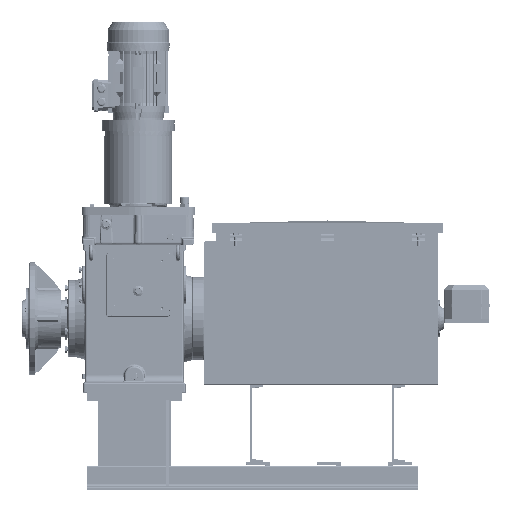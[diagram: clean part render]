
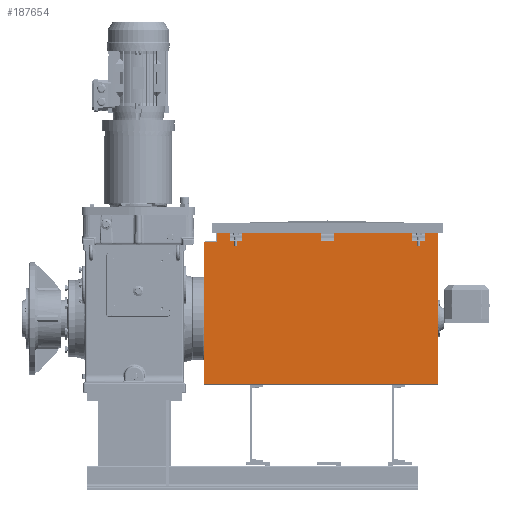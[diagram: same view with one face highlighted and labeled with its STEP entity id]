
A CAD part, top view. The second image highlights one B-rep face of the part: STEP entity #187654.
In plain terms, the highlighted planar face has unit normal (0, 0, 1).
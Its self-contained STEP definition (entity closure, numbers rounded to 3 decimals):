
#1102=PLANE('',#199110);
#10503=LINE('',#275144,#26992);
#10520=LINE('',#275189,#27009);
#10522=LINE('',#275193,#27011);
#10523=LINE('',#275195,#27012);
#10561=LINE('',#275302,#27050);
#10578=LINE('',#275347,#27067);
#10580=LINE('',#275351,#27069);
#10581=LINE('',#275353,#27070);
#10590=LINE('',#275381,#27079);
#10607=LINE('',#275426,#27096);
#10609=LINE('',#275430,#27098);
#10610=LINE('',#275432,#27099);
#10725=LINE('',#275782,#27214);
#10768=LINE('',#275886,#27257);
#10773=LINE('',#275894,#27262);
#10786=LINE('',#275928,#27275);
#10789=LINE('',#275933,#27278);
#10806=LINE('',#275966,#27295);
#10812=LINE('',#275981,#27301);
#10814=LINE('',#275985,#27303);
#10816=LINE('',#275989,#27305);
#10818=LINE('',#275992,#27307);
#10819=LINE('',#275995,#27308);
#10821=LINE('',#275999,#27310);
#10822=LINE('',#276001,#27311);
#10823=LINE('',#276002,#27312);
#26992=VECTOR('',#217965,40.);
#27009=VECTOR('',#218008,40.);
#27011=VECTOR('',#218012,40.);
#27012=VECTOR('',#218015,40.);
#27050=VECTOR('',#218119,40.);
#27067=VECTOR('',#218162,40.);
#27069=VECTOR('',#218166,40.);
#27070=VECTOR('',#218169,40.);
#27079=VECTOR('',#218196,40.);
#27096=VECTOR('',#218239,40.);
#27098=VECTOR('',#218243,40.);
#27099=VECTOR('',#218246,40.);
#27214=VECTOR('',#218569,0.992);
#27257=VECTOR('',#218666,0.992);
#27262=VECTOR('',#218673,596.);
#27275=VECTOR('',#218708,50.);
#27278=VECTOR('',#218713,40.);
#27295=VECTOR('',#218740,49.016);
#27301=VECTOR('',#218762,1.984);
#27303=VECTOR('',#218766,2.976);
#27305=VECTOR('',#218770,2.976);
#27307=VECTOR('',#218774,1.984);
#27308=VECTOR('',#218777,51.016);
#27310=VECTOR('',#218781,448.016);
#27311=VECTOR('',#218782,740.);
#27312=VECTOR('',#218783,498.016);
#43160=FACE_BOUND('',#62831,.T.);
#43161=FACE_BOUND('',#62832,.T.);
#43162=FACE_BOUND('',#62833,.T.);
#52276=FACE_OUTER_BOUND('',#62830,.T.);
#62830=EDGE_LOOP('',(#126661,#126662,#126663,#126664,#126665,#126666,#126667,
#126668,#126669,#126670,#126671,#126672,#126673,#126674));
#62831=EDGE_LOOP('',(#126675,#126676,#126677,#126678));
#62832=EDGE_LOOP('',(#126679,#126680,#126681,#126682));
#62833=EDGE_LOOP('',(#126683,#126684,#126685,#126686));
#78459=VERTEX_POINT('',#275142);
#78460=VERTEX_POINT('',#275143);
#78475=VERTEX_POINT('',#275187);
#78476=VERTEX_POINT('',#275191);
#78511=VERTEX_POINT('',#275300);
#78512=VERTEX_POINT('',#275301);
#78527=VERTEX_POINT('',#275345);
#78528=VERTEX_POINT('',#275349);
#78537=VERTEX_POINT('',#275379);
#78538=VERTEX_POINT('',#275380);
#78553=VERTEX_POINT('',#275424);
#78554=VERTEX_POINT('',#275428);
#78684=VERTEX_POINT('',#275779);
#78685=VERTEX_POINT('',#275781);
#78718=VERTEX_POINT('',#275883);
#78719=VERTEX_POINT('',#275885);
#78730=VERTEX_POINT('',#275926);
#78731=VERTEX_POINT('',#275927);
#78732=VERTEX_POINT('',#275932);
#78743=VERTEX_POINT('',#275965);
#78744=VERTEX_POINT('',#275980);
#78745=VERTEX_POINT('',#275984);
#78746=VERTEX_POINT('',#275988);
#78747=VERTEX_POINT('',#275994);
#78748=VERTEX_POINT('',#275998);
#78749=VERTEX_POINT('',#276000);
#96826=EDGE_CURVE('',#78459,#78460,#10503,.T.);
#96849=EDGE_CURVE('',#78460,#78475,#10520,.T.);
#96851=EDGE_CURVE('',#78476,#78459,#10522,.T.);
#96852=EDGE_CURVE('',#78475,#78476,#10523,.T.);
#96904=EDGE_CURVE('',#78511,#78512,#10561,.T.);
#96927=EDGE_CURVE('',#78512,#78527,#10578,.T.);
#96929=EDGE_CURVE('',#78528,#78511,#10580,.T.);
#96930=EDGE_CURVE('',#78527,#78528,#10581,.T.);
#96943=EDGE_CURVE('',#78537,#78538,#10590,.T.);
#96966=EDGE_CURVE('',#78538,#78553,#10607,.T.);
#96968=EDGE_CURVE('',#78554,#78537,#10609,.T.);
#96969=EDGE_CURVE('',#78553,#78554,#10610,.T.);
#97142=EDGE_CURVE('',#78685,#78684,#10725,.T.);
#97198=EDGE_CURVE('',#78719,#78718,#10768,.T.);
#97203=EDGE_CURVE('',#78718,#78685,#10773,.T.);
#97220=EDGE_CURVE('',#78730,#78731,#10786,.T.);
#97223=EDGE_CURVE('',#78731,#78732,#10789,.T.);
#97240=EDGE_CURVE('',#78730,#78743,#10806,.T.);
#97246=EDGE_CURVE('',#78744,#78719,#10812,.T.);
#97248=EDGE_CURVE('',#78745,#78744,#10814,.T.);
#97250=EDGE_CURVE('',#78746,#78743,#10816,.T.);
#97252=EDGE_CURVE('',#78684,#78746,#10818,.T.);
#97253=EDGE_CURVE('',#78745,#78747,#10819,.T.);
#97255=EDGE_CURVE('',#78748,#78732,#10821,.T.);
#97256=EDGE_CURVE('',#78749,#78748,#10822,.T.);
#97257=EDGE_CURVE('',#78747,#78749,#10823,.T.);
#126661=ORIENTED_EDGE('',*,*,#97223,.T.);
#126662=ORIENTED_EDGE('',*,*,#97255,.F.);
#126663=ORIENTED_EDGE('',*,*,#97256,.F.);
#126664=ORIENTED_EDGE('',*,*,#97257,.F.);
#126665=ORIENTED_EDGE('',*,*,#97253,.F.);
#126666=ORIENTED_EDGE('',*,*,#97248,.T.);
#126667=ORIENTED_EDGE('',*,*,#97246,.T.);
#126668=ORIENTED_EDGE('',*,*,#97198,.T.);
#126669=ORIENTED_EDGE('',*,*,#97203,.T.);
#126670=ORIENTED_EDGE('',*,*,#97142,.T.);
#126671=ORIENTED_EDGE('',*,*,#97252,.T.);
#126672=ORIENTED_EDGE('',*,*,#97250,.T.);
#126673=ORIENTED_EDGE('',*,*,#97240,.F.);
#126674=ORIENTED_EDGE('',*,*,#97220,.T.);
#126675=ORIENTED_EDGE('',*,*,#96826,.T.);
#126676=ORIENTED_EDGE('',*,*,#96849,.T.);
#126677=ORIENTED_EDGE('',*,*,#96852,.T.);
#126678=ORIENTED_EDGE('',*,*,#96851,.T.);
#126679=ORIENTED_EDGE('',*,*,#96904,.T.);
#126680=ORIENTED_EDGE('',*,*,#96927,.T.);
#126681=ORIENTED_EDGE('',*,*,#96930,.T.);
#126682=ORIENTED_EDGE('',*,*,#96929,.T.);
#126683=ORIENTED_EDGE('',*,*,#96943,.T.);
#126684=ORIENTED_EDGE('',*,*,#96966,.T.);
#126685=ORIENTED_EDGE('',*,*,#96969,.T.);
#126686=ORIENTED_EDGE('',*,*,#96968,.T.);
#187654=ADVANCED_FACE('',(#52276,#43160,#43161,#43162),#1102,.T.);
#199110=AXIS2_PLACEMENT_3D('',#275997,#218779,#218780);
#217965=DIRECTION('',(0.,-1.,0.));
#218008=DIRECTION('',(-1.,0.,0.));
#218012=DIRECTION('',(1.,0.,0.));
#218015=DIRECTION('',(0.,1.,0.));
#218119=DIRECTION('',(0.,-1.,0.));
#218162=DIRECTION('',(-1.,0.,0.));
#218166=DIRECTION('',(1.,0.,0.));
#218169=DIRECTION('',(0.,1.,0.));
#218196=DIRECTION('',(0.,-1.,0.));
#218239=DIRECTION('',(-1.,0.,0.));
#218243=DIRECTION('',(1.,0.,0.));
#218246=DIRECTION('',(0.,1.,0.));
#218569=DIRECTION('',(0.,-1.,0.));
#218666=DIRECTION('',(0.,1.,0.));
#218673=DIRECTION('',(-1.,0.,0.));
#218708=DIRECTION('',(0.,-1.,0.));
#218713=DIRECTION('',(-1.,0.,0.));
#218740=DIRECTION('',(1.,0.,0.));
#218762=DIRECTION('',(-1.,0.,0.));
#218766=DIRECTION('',(0.,-1.,0.));
#218770=DIRECTION('',(0.,1.,0.));
#218774=DIRECTION('',(-1.,0.,0.));
#218777=DIRECTION('',(1.,0.,0.));
#218779=DIRECTION('center_axis',(0.,0.,
1.));
#218780=DIRECTION('ref_axis',(0.,1.,0.));
#218781=DIRECTION('',(0.,1.,0.));
#218782=DIRECTION('',(-1.,0.,0.));
#218783=DIRECTION('',(0.,-1.,0.));
#275142=CARTESIAN_POINT('',(961.952,225.225,105.519));
#275143=CARTESIAN_POINT('',(961.952,185.225,105.519));
#275144=CARTESIAN_POINT('',(961.952,89.232,105.519));
#275187=CARTESIAN_POINT('',(921.952,185.225,105.519));
#275189=CARTESIAN_POINT('',(787.231,185.225,105.519));
#275191=CARTESIAN_POINT('',(921.952,225.225,105.519));
#275193=CARTESIAN_POINT('',(787.231,225.225,105.519));
#275195=CARTESIAN_POINT('',(921.952,89.232,105.519));
#275300=CARTESIAN_POINT('',(671.952,225.225,105.519));
#275301=CARTESIAN_POINT('',(671.952,185.225,105.519));
#275302=CARTESIAN_POINT('',(671.952,89.232,105.519));
#275345=CARTESIAN_POINT('',(631.952,185.225,105.519));
#275347=CARTESIAN_POINT('',(642.231,185.225,105.519));
#275349=CARTESIAN_POINT('',(631.952,225.225,105.519));
#275351=CARTESIAN_POINT('',(642.231,225.225,105.519));
#275353=CARTESIAN_POINT('',(631.952,89.232,105.519));
#275379=CARTESIAN_POINT('',(381.952,225.225,105.519));
#275380=CARTESIAN_POINT('',(381.952,185.225,105.519));
#275381=CARTESIAN_POINT('',(381.952,89.232,105.519));
#275424=CARTESIAN_POINT('',(341.952,185.225,105.519));
#275426=CARTESIAN_POINT('',(497.231,185.225,105.519));
#275428=CARTESIAN_POINT('',(341.952,225.225,105.519));
#275430=CARTESIAN_POINT('',(497.231,225.225,105.519));
#275432=CARTESIAN_POINT('',(341.952,89.232,105.519));
#275779=CARTESIAN_POINT('',(353.51,228.388,105.519));
#275781=CARTESIAN_POINT('',(353.51,229.38,105.519));
#275782=CARTESIAN_POINT('',(353.51,104.876,105.519));
#275883=CARTESIAN_POINT('',(949.51,229.38,105.519));
#275885=CARTESIAN_POINT('',(949.51,228.388,105.519));
#275886=CARTESIAN_POINT('',(949.51,106.364,105.519));
#275894=CARTESIAN_POINT('',(791.01,229.38,105.519));
#275926=CARTESIAN_POINT('',(302.51,231.364,105.519));
#275927=CARTESIAN_POINT('',(302.51,181.364,105.519));
#275928=CARTESIAN_POINT('',(302.51,106.364,105.519));
#275932=CARTESIAN_POINT('',(262.51,181.364,105.519));
#275933=CARTESIAN_POINT('',(467.51,181.364,105.519));
#275965=CARTESIAN_POINT('',(351.526,231.364,105.519));
#275966=CARTESIAN_POINT('',(262.51,231.364,105.519));
#275980=CARTESIAN_POINT('',(951.494,228.388,105.519));
#275981=CARTESIAN_POINT('',(791.01,228.388,105.519));
#275984=CARTESIAN_POINT('',(951.494,231.364,105.519));
#275985=CARTESIAN_POINT('',(951.494,104.876,105.519));
#275988=CARTESIAN_POINT('',(351.526,228.388,105.519));
#275989=CARTESIAN_POINT('',(351.526,106.364,105.519));
#275992=CARTESIAN_POINT('',(492.018,228.388,105.519));
#275994=CARTESIAN_POINT('',(1002.51,231.364,105.519));
#275995=CARTESIAN_POINT('',(262.51,231.364,105.519));
#275997=CARTESIAN_POINT('Origin',(632.51,-18.636,105.519));
#275998=CARTESIAN_POINT('',(262.51,-266.652,105.519));
#275999=CARTESIAN_POINT('',(262.51,-268.636,105.519));
#276000=CARTESIAN_POINT('',(1002.51,-266.652,105.519));
#276001=CARTESIAN_POINT('',(262.51,-266.652,105.519));
#276002=CARTESIAN_POINT('',(1002.51,231.364,105.519));
